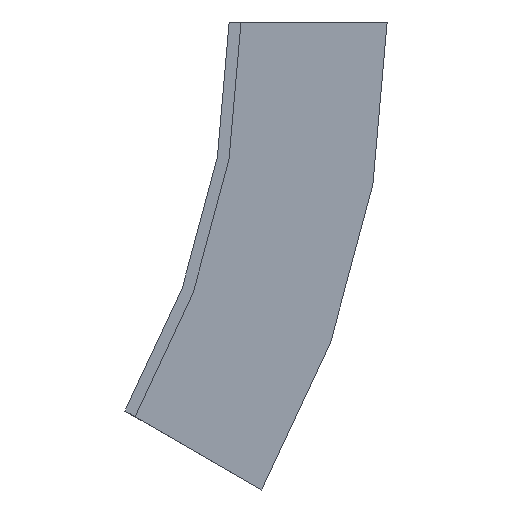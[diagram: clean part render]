
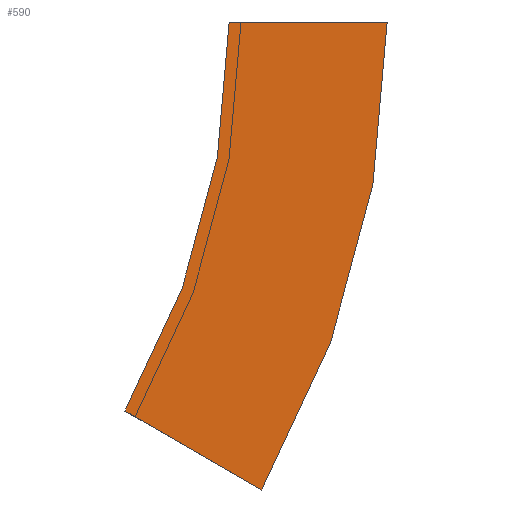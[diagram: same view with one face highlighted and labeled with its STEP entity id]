
A CAD part, left-side view. The second image highlights one B-rep face of the part: STEP entity #590.
In plain terms, the highlighted planar face has unit normal (-1, 0, 0).
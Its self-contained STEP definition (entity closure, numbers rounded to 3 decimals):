
#4 = DIRECTION ( 'NONE',  ( 0., 0.866, 0.5 ) ) ;
#6 = EDGE_LOOP ( 'NONE', ( #506, #436, #592, #594 ) ) ;
#7 = DIRECTION ( 'NONE',  ( 0., 0., 1. ) ) ;
#54 = DIRECTION ( 'NONE',  ( -1., 0., 0. ) ) ;
#70 = VERTEX_POINT ( 'NONE', #180 ) ;
#101 = CARTESIAN_POINT ( 'NONE',  ( -203.5, 98.5, 0. ) ) ;
#107 = DIRECTION ( 'NONE',  ( 0., 0., 1. ) ) ;
#125 = AXIS2_PLACEMENT_3D ( 'NONE', #253, #479, #347 ) ;
#139 = EDGE_CURVE ( 'NONE', #70, #477, #201, .T. ) ;
#153 = FACE_OUTER_BOUND ( 'NONE', #6, .T. ) ;
#180 = CARTESIAN_POINT ( 'NONE',  ( -203.5, 0., 0. ) ) ;
#192 = CARTESIAN_POINT ( 'NONE',  ( -203.5, 0., 0. ) ) ;
#201 = LINE ( 'NONE', #192, #487 ) ;
#211 = AXIS2_PLACEMENT_3D ( 'NONE', #101, #54, #7 ) ;
#218 = CARTESIAN_POINT ( 'NONE',  ( -203.5, 13.196, -49.25 ) ) ;
#251 = PLANE ( 'NONE',  #211 ) ;
#253 = CARTESIAN_POINT ( 'NONE',  ( -203.5, 98.5, 0. ) ) ;
#265 = EDGE_CURVE ( 'NONE', #477, #383, #392, .T. ) ;
#268 = EDGE_CURVE ( 'NONE', #310, #70, #469, .T. ) ;
#310 = VERTEX_POINT ( 'NONE', #218 ) ;
#347 = DIRECTION ( 'NONE',  ( 0., 0., -1. ) ) ;
#383 = VERTEX_POINT ( 'NONE', #493 ) ;
#392 = CIRCLE ( 'NONE', #125, 118.5 ) ;
#429 = DIRECTION ( 'NONE',  ( 0., -1., 0. ) ) ;
#436 = ORIENTED_EDGE ( 'NONE', *, *, #265, .F. ) ;
#437 = CARTESIAN_POINT ( 'NONE',  ( -203.5, 98.5, 0. ) ) ;
#469 = CIRCLE ( 'NONE', #544, 98.5 ) ;
#472 = LINE ( 'NONE', #565, #510 ) ;
#477 = VERTEX_POINT ( 'NONE', #520 ) ;
#479 = DIRECTION ( 'NONE',  ( 1., 0., 0. ) ) ;
#487 = VECTOR ( 'NONE', #429, 1000. ) ;
#493 = CARTESIAN_POINT ( 'NONE',  ( -203.5, -4.124, -59.25 ) ) ;
#506 = ORIENTED_EDGE ( 'NONE', *, *, #507, .F. ) ;
#507 = EDGE_CURVE ( 'NONE', #383, #310, #472, .T. ) ;
#510 = VECTOR ( 'NONE', #4, 1000. ) ;
#520 = CARTESIAN_POINT ( 'NONE',  ( -203.5, -20., 0. ) ) ;
#531 = DIRECTION ( 'NONE',  ( -1., 0., 0. ) ) ;
#544 = AXIS2_PLACEMENT_3D ( 'NONE', #437, #531, #107 ) ;
#565 = CARTESIAN_POINT ( 'NONE',  ( -203.5, -4.124, -59.25 ) ) ;
#590 = ADVANCED_FACE ( 'NONE', ( #153 ), #251, .T. ) ;
#592 = ORIENTED_EDGE ( 'NONE', *, *, #139, .F. ) ;
#594 = ORIENTED_EDGE ( 'NONE', *, *, #268, .F. ) ;
